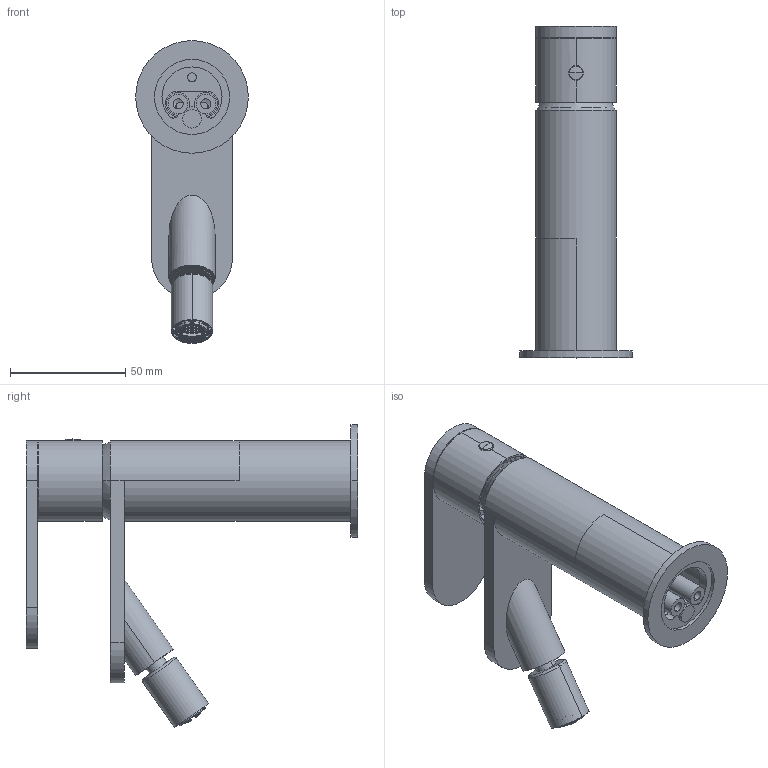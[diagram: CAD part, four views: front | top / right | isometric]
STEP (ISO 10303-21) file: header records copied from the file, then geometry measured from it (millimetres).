
FILE_DESCRIPTION((''),'2;1');
FILE_NAME('7908021_SW0001','2026-10-05T15:08:28',('carloff'),(''),'CREO PARAMETRIC BY PTC INC, 2025443','CREO PARAMETRIC BY PTC INC, 2025443','');
FILE_SCHEMA(('CONFIG_CONTROL_DESIGN'));
Length unit declared in the file: millimetre
Products named in the file (1): 7908021_SW0001
Bounding box: 48.8 x 143.74 x 131.16 mm (x, y, z)
Volume: 118208.5 mm3; surface area: 82435.7 mm2
Topology: 1 solids, 3 shells, 3709 faces, 10597 edges, 6892 vertices
Faces by surface type: plane 2083, cylinder 670, torus 539, bspline 208, cone 123, sphere 79, extrusion 7
Entity records: 157472 total; most frequent: CARTESIAN_POINT 66686, ORIENTED_EDGE 21040, DIRECTION 16132, EDGE_CURVE 10520, VERTEX_POINT 6891, AXIS2_PLACEMENT_3D 6106, EDGE_LOOP 4143, B_SPLINE_CURVE_WITH_KNOTS 4002
